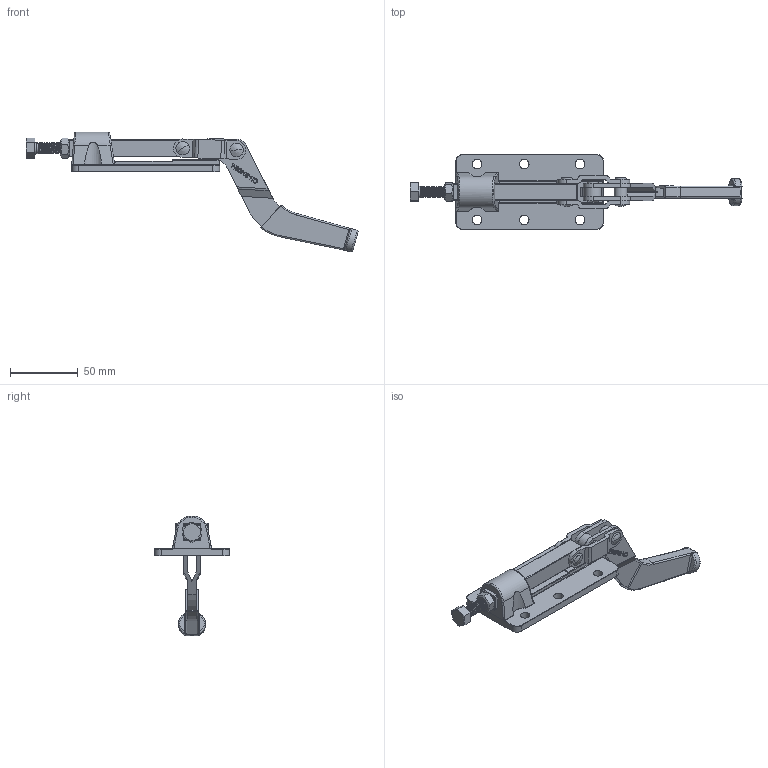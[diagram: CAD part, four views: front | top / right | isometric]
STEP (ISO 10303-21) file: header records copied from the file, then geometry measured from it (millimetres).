
FILE_DESCRIPTION(/* description */ ('STEP AP203'),/* implementation_level */ '2;1');
FILE_NAME(/* name */ 'D:\Vault_2016\Projekty\STRONA\Push-pull clamp\CH-30608M\CH-30608M_OTWARTY.stp',/* time_stamp */ '2019-01-10T16:42:05+01:00',/* author */ ('user'),/* organization */ ('Î¢ÈíÖÐ¹ú'),/* preprocessor_version */ 'ST-DEVELOPER v17.2',/* originating_system */ 'Autodesk Inventor 2019',/* authorisation */ '');
FILE_SCHEMA (('AUTOMOTIVE_DESIGN { 1 0 10303 214 3 1 1 }'));
Products named in the file (10): CH-30608M_OTWARTY; CH-SA-085012 SPINDLE SUPPLIED; CH-30607-05; CH-30608-02 CREST STALK; M8 NUT; CH-30608-03 HANDLE; CH-30607-04 CONNECTING-PLATE; CH-30608-01 BASE; CH-30607-06; CH-30607-07
Assembly tree (11 placements, depth 2):
  CH-30608M_OTWARTY
    CH-SA-085012 SPINDLE SUPPLIED
    CH-30607-05
    CH-30607-07  x2
    CH-30608-02 CREST STALK
    M8 NUT
    CH-30607-04 CONNECTING-PLATE  x2
    CH-30608-03 HANDLE
    CH-30608-01 BASE
    CH-30607-06
Bounding box: 245.84 x 55.6 x 88.82 mm (x, y, z)
Volume: 89736.3 mm3; surface area: 44462.2 mm2
Topology: 11 solids, 12 shells, 735 faces, 2025 edges, 1342 vertices
Faces by surface type: plane 279, bspline 239, cylinder 174, torus 25, cone 14, sphere 4
Full cylindrical faces by diameter (mm): 2.062 x1, 2.405 x1, 5.8 x3, 6.4 x12, 6.5 x4, 6.8 x19, 7.1 x6, 8 x37, 9.5 x3
Entity records: 59818 total; most frequent: CARTESIAN_POINT 43137, ORIENTED_EDGE 3858, DIRECTION 2589, EDGE_CURVE 1929, VERTEX_POINT 1282, LINE 961, VECTOR 961, AXIS2_PLACEMENT_3D 814
